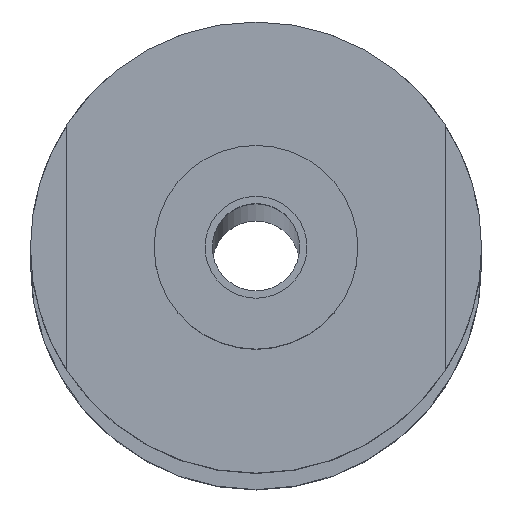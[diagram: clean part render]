
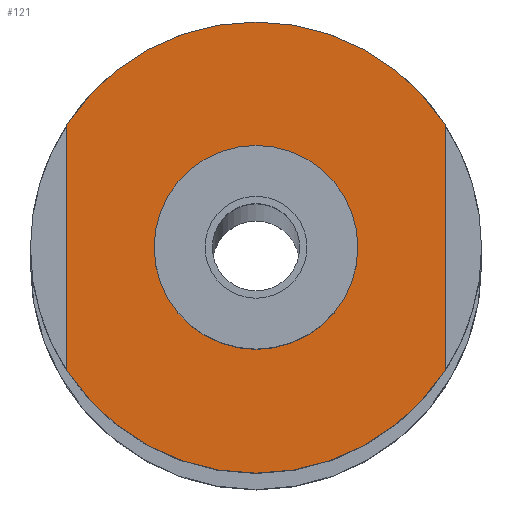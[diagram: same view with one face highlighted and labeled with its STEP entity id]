
A CAD part, top view. The second image highlights one B-rep face of the part: STEP entity #121.
In plain terms, the highlighted planar face has unit normal (0, 0, 1).
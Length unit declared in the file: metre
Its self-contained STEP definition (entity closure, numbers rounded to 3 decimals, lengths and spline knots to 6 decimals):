
#121=ADVANCED_FACE('37:1511',(#238,#239),#240,.T.);
#238=FACE_OUTER_BOUND('',#364,.T.);
#239=FACE_BOUND('',#365,.T.);
#240=PLANE('',#366);
#364=EDGE_LOOP('',(#596,#597,#598,#599,#600,#601));
#365=EDGE_LOOP('',(#602,#603));
#366=AXIS2_PLACEMENT_3D('',#604,#605,#606);
#596=ORIENTED_EDGE('',*,*,#761,.F.);
#597=ORIENTED_EDGE('',*,*,#760,.F.);
#598=ORIENTED_EDGE('',*,*,#756,.F.);
#599=ORIENTED_EDGE('',*,*,#688,.F.);
#600=ORIENTED_EDGE('',*,*,#687,.F.);
#601=ORIENTED_EDGE('',*,*,#751,.T.);
#602=ORIENTED_EDGE('',*,*,#749,.F.);
#603=ORIENTED_EDGE('',*,*,#693,.F.);
#604=CARTESIAN_POINT('',(0.0,0.0,3.025));
#605=DIRECTION('',(0.0,0.0,1.0));
#606=DIRECTION('',(1.0,0.0,0.0));
#687=EDGE_CURVE('37:1561',#812,#814,#815,.F.);
#688=EDGE_CURVE('37:1552',#814,#816,#817,.F.);
#693=EDGE_CURVE('',#822,#825,#826,.T.);
#749=EDGE_CURVE('37:1539',#825,#822,#907,.T.);
#751=EDGE_CURVE('37:3142',#812,#909,#910,.T.);
#756=EDGE_CURVE('37:2641',#816,#917,#918,.F.);
#760=EDGE_CURVE('37:1558',#917,#922,#923,.F.);
#761=EDGE_CURVE('37:1549',#922,#909,#924,.F.);
#812=VERTEX_POINT('',#1001);
#814=VERTEX_POINT('',#1004);
#815=CIRCLE('',#1005,0.0155);
#816=VERTEX_POINT('',#1006);
#817=CIRCLE('',#1007,0.0155);
#822=VERTEX_POINT('',#1013);
#825=VERTEX_POINT('',#1017);
#826=CIRCLE('',#1018,0.007);
#907=CIRCLE('',#1116,0.007);
#909=VERTEX_POINT('',#1118);
#910=LINE('',#1119,#1120);
#917=VERTEX_POINT('',#1130);
#918=LINE('',#1131,#1132);
#922=VERTEX_POINT('',#1137);
#923=CIRCLE('',#1138,0.0155);
#924=CIRCLE('',#1139,0.0155);
#1001=CARTESIAN_POINT('',(-0.013092,0.008536,3.025));
#1004=CARTESIAN_POINT('',(-0.000092,0.015595,3.025));
#1005=AXIS2_PLACEMENT_3D('',#1221,#1222,#1223);
#1006=CARTESIAN_POINT('',(0.012908,0.008536,3.025));
#1007=AXIS2_PLACEMENT_3D('',#1224,#1225,#1226);
#1013=CARTESIAN_POINT('',(0.006908,0.000095,3.025));
#1017=CARTESIAN_POINT('',(-0.007092,0.000095,3.025));
#1018=AXIS2_PLACEMENT_3D('',#1232,#1233,#1234);
#1116=AXIS2_PLACEMENT_3D('',#1318,#1319,#1320);
#1118=CARTESIAN_POINT('',(-0.013092,-0.008346,3.025));
#1119=CARTESIAN_POINT('',(-0.013092,0.000048,3.025));
#1120=VECTOR('',#1321,1.0);
#1130=CARTESIAN_POINT('',(0.012908,-0.008346,3.025));
#1131=CARTESIAN_POINT('',(0.012908,0.000048,3.025));
#1132=VECTOR('',#1325,1.0);
#1137=CARTESIAN_POINT('',(-0.000092,-0.015405,3.025));
#1138=AXIS2_PLACEMENT_3D('',#1330,#1331,#1332);
#1139=AXIS2_PLACEMENT_3D('',#1333,#1334,#1335);
#1221=CARTESIAN_POINT('',(-0.000092,0.000095,3.025));
#1222=DIRECTION('',(0.0,0.0,1.0));
#1223=DIRECTION('',(1.0,0.0,0.0));
#1224=CARTESIAN_POINT('',(-0.000092,0.000095,3.025));
#1225=DIRECTION('',(0.0,0.0,1.0));
#1226=DIRECTION('',(1.0,0.0,0.0));
#1232=CARTESIAN_POINT('',(-0.000092,0.000095,3.025));
#1233=DIRECTION('',(0.0,0.0,1.0));
#1234=DIRECTION('',(1.0,0.0,-0.0));
#1318=CARTESIAN_POINT('',(-0.000092,0.000095,3.025));
#1319=DIRECTION('',(0.0,0.0,1.0));
#1320=DIRECTION('',(1.0,0.0,-0.0));
#1321=DIRECTION('',(0.,-1.0,0.0));
#1325=DIRECTION('',(0.,1.0,0.0));
#1330=CARTESIAN_POINT('',(-0.000092,0.000095,3.025));
#1331=DIRECTION('',(0.0,0.0,1.0));
#1332=DIRECTION('',(1.0,0.0,0.0));
#1333=CARTESIAN_POINT('',(-0.000092,0.000095,3.025));
#1334=DIRECTION('',(0.0,0.0,1.0));
#1335=DIRECTION('',(1.0,0.0,0.0));
